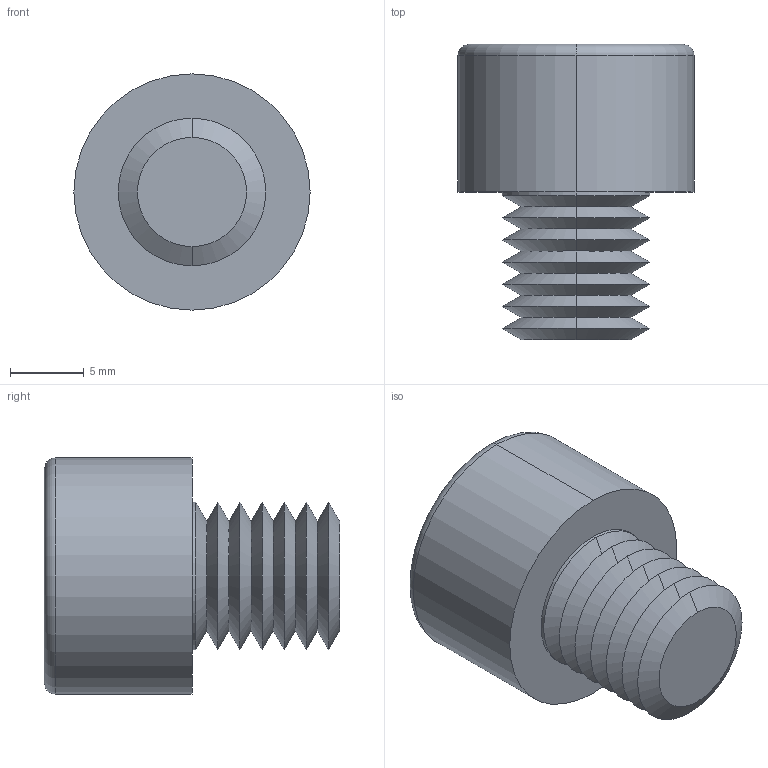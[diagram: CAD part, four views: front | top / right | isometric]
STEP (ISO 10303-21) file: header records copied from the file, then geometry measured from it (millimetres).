
FILE_DESCRIPTION (( 'STEP AP203' ), '1' );
FILE_NAME ('91N.100.0100.step', '2025-05-20T08:54:34', ( '' ), ( '' ), 'SwSTEP 2.0', 'SolidWorks 2019', '' );
FILE_SCHEMA (( 'CONFIG_CONTROL_DESIGN' ));
Length unit declared in the file: millimetre
Products named in the file (1): 91N.100.0100
Bounding box: 16 x 20 x 16 mm (x, y, z)
Volume: 2125.5 mm3; surface area: 1620.6 mm2
Topology: 1 solids, 1 shells, 56 faces, 111 edges, 57 vertices
Faces by surface type: cone 35, plane 15, cylinder 4, torus 2
Entity records: 1482 total; most frequent: DIRECTION 267, CARTESIAN_POINT 254, ORIENTED_EDGE 218, EDGE_CURVE 109, AXIS2_PLACEMENT_3D 108, EDGE_LOOP 58, VERTEX_POINT 57, FACE_OUTER_BOUND 56
